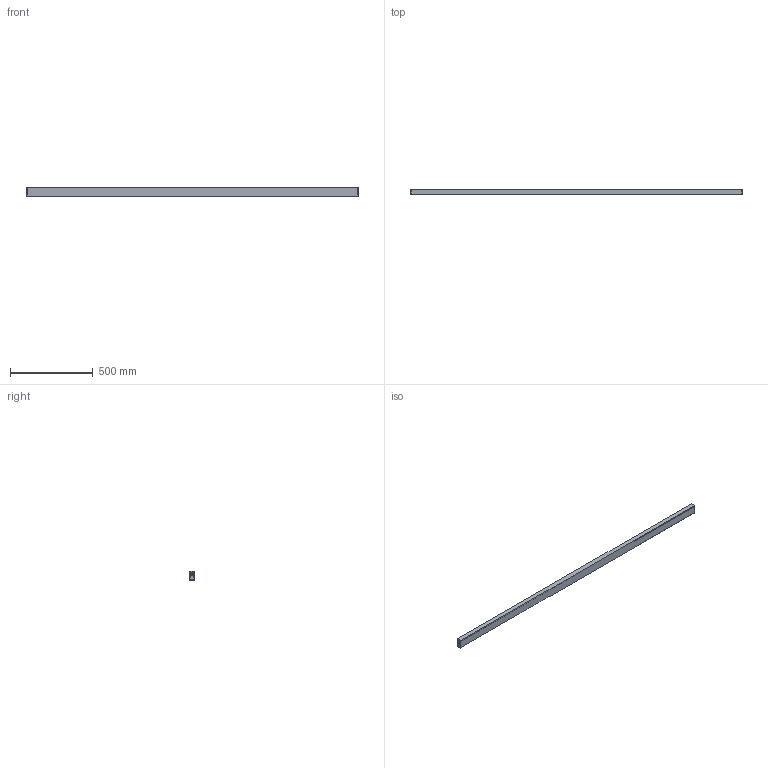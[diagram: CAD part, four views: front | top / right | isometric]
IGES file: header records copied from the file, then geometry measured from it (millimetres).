
Start section: SolidWorks IGES file using analytic representation for surfaces
Global section: file name: X:\PRODUKT\Modele 3D_WWW\_KOLEKCJE WWW\_LVM\LVM-TRACK-2M-10163\LVM-TRACK-2M-10163.IGS; native system: SolidWorks 2021; preprocessor: SolidWorks 2021; author: gabriela.tworek; date: 220509.105151; units: millimetre
Bounding box: 2008.05 x 27.5 x 56.47 mm (x, y, z)
Surface area: 573631.8 mm2 (no closed solid volume)
Topology: 0 solids, 0 shells, 60 faces, 308 edges, 304 vertices
Faces by surface type: bspline 44, revolution 16
